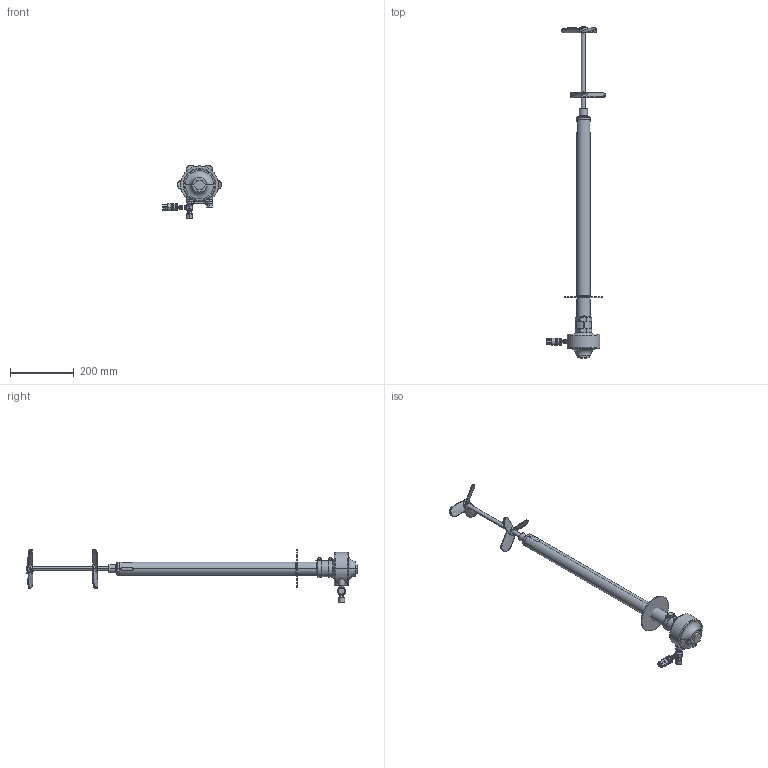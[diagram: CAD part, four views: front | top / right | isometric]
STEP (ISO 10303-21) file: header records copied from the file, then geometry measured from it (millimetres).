
FILE_DESCRIPTION((''),'2;1');
FILE_NAME('206760-EN-W_PRT','2022-02-14T11:12:22',('qtmwp1'),(''),'CREO PARAMETRIC BY PTC INC, 2021072','CREO PARAMETRIC BY PTC INC, 2021072','');
FILE_SCHEMA(('CONFIG_CONTROL_DESIGN'));
Length unit declared in the file: inch
Products named in the file (1): 206760-EN-W_PRT
Bounding box: 185.49 x 1042.73 x 169.17 mm (x, y, z)
Surface area: 314134.4 mm2 (no closed solid volume)
Topology: 0 solids, 58 shells, 281 faces, 838 edges, 602 vertices
Faces by surface type: cylinder 109, plane 74, bspline 48, torus 24, cone 24, sphere 2
Entity records: 13250 total; most frequent: CARTESIAN_POINT 6124, DIRECTION 1481, ORIENTED_EDGE 1312, EDGE_CURVE 838, VERTEX_POINT 602, AXIS2_PLACEMENT_3D 582, CIRCLE 349, VECTOR 317
